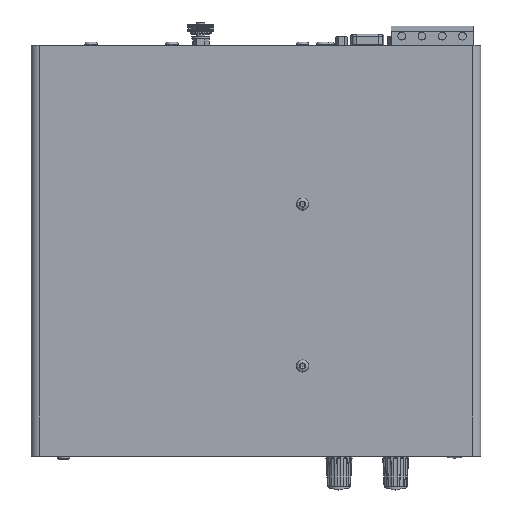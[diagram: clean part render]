
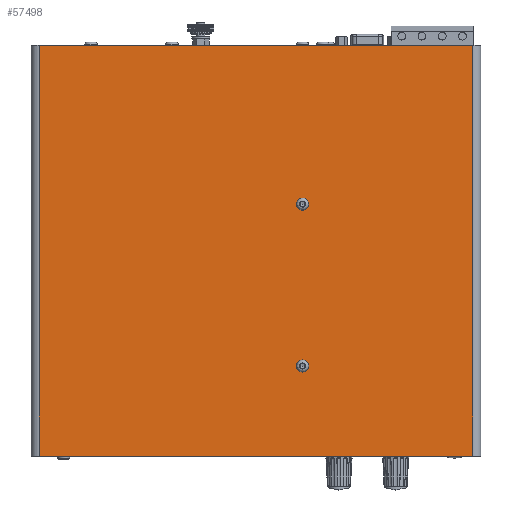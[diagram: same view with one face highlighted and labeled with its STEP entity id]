
A CAD part, top view. The second image highlights one B-rep face of the part: STEP entity #57498.
In plain terms, the highlighted planar face has unit normal (0, 0, 1).
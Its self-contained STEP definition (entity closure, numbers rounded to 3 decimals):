
#2359=FACE_BOUND('',#12341,.T.);
#2360=FACE_BOUND('',#12342,.T.);
#3363=PLANE('',#61831);
#8857=FACE_OUTER_BOUND('',#12340,.T.);
#12340=EDGE_LOOP('',(#45171,#45172,#45173,#45174));
#12341=EDGE_LOOP('',(#45175));
#12342=EDGE_LOOP('',(#45176));
#16098=CIRCLE('',#61799,3.);
#16102=CIRCLE('',#61805,3.);
#18929=LINE('',#90460,#23182);
#18932=LINE('',#90471,#23185);
#18935=LINE('',#90480,#23188);
#18937=LINE('',#90484,#23190);
#23182=VECTOR('',#70672,10.);
#23185=VECTOR('',#70685,10.);
#23188=VECTOR('',#70696,10.);
#23190=VECTOR('',#70702,10.);
#27971=VERTEX_POINT('',#90384);
#27975=VERTEX_POINT('',#90395);
#28001=VERTEX_POINT('',#90457);
#28002=VERTEX_POINT('',#90459);
#28005=VERTEX_POINT('',#90470);
#28007=VERTEX_POINT('',#90478);
#34221=EDGE_CURVE('',#27971,#27971,#16098,.T.);
#34226=EDGE_CURVE('',#27975,#27975,#16102,.T.);
#34257=EDGE_CURVE('',#28001,#28002,#18929,.T.);
#34263=EDGE_CURVE('',#28005,#28002,#18932,.T.);
#34268=EDGE_CURVE('',#28001,#28007,#18935,.T.);
#34270=EDGE_CURVE('',#28005,#28007,#18937,.T.);
#45171=ORIENTED_EDGE('',*,*,#34268,.T.);
#45172=ORIENTED_EDGE('',*,*,#34270,.F.);
#45173=ORIENTED_EDGE('',*,*,#34263,.T.);
#45174=ORIENTED_EDGE('',*,*,#34257,.F.);
#45175=ORIENTED_EDGE('',*,*,#34221,.T.);
#45176=ORIENTED_EDGE('',*,*,#34226,.T.);
#57498=ADVANCED_FACE('',(#8857,#2359,#2360),#3363,.T.);
#61799=AXIS2_PLACEMENT_3D('',#90385,#70606,#70607);
#61805=AXIS2_PLACEMENT_3D('',#90396,#70619,#70620);
#61831=AXIS2_PLACEMENT_3D('',#90483,#70700,#70701);
#70606=DIRECTION('center_axis',(0.,0.,
-1.));
#70607=DIRECTION('ref_axis',(-1.,0.,0.));
#70619=DIRECTION('center_axis',(0.,0.,
-1.));
#70620=DIRECTION('ref_axis',(-1.,0.,0.));
#70672=DIRECTION('',(-1.,0.,0.));
#70685=DIRECTION('',(0.,-1.,0.));
#70696=DIRECTION('',(0.,1.,0.));
#70700=DIRECTION('center_axis',(0.,0.,
1.));
#70701=DIRECTION('ref_axis',(1.,0.,0.));
#70702=DIRECTION('',(1.,0.,0.));
#90384=CARTESIAN_POINT('',(26.,23.,52.));
#90385=CARTESIAN_POINT('Origin',(23.,23.,52.));
#90395=CARTESIAN_POINT('',(26.,-57.,52.));
#90396=CARTESIAN_POINT('Origin',(23.,-57.,52.));
#90457=CARTESIAN_POINT('',(107.,-101.5,52.));
#90459=CARTESIAN_POINT('',(-107.,-101.5,52.));
#90460=CARTESIAN_POINT('',(111.,-101.5,52.));
#90470=CARTESIAN_POINT('',(-107.,101.5,52.));
#90471=CARTESIAN_POINT('',(-107.,50.75,52.));
#90478=CARTESIAN_POINT('',(107.,101.5,52.));
#90480=CARTESIAN_POINT('',(107.,-50.75,52.));
#90483=CARTESIAN_POINT('Origin',(0.,0.,
52.));
#90484=CARTESIAN_POINT('',(-111.,101.5,52.));
